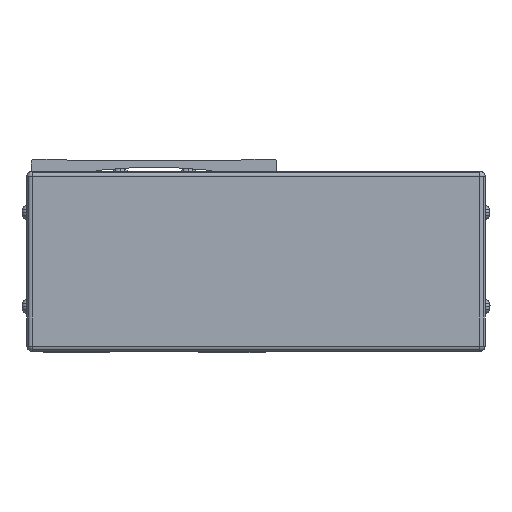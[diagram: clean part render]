
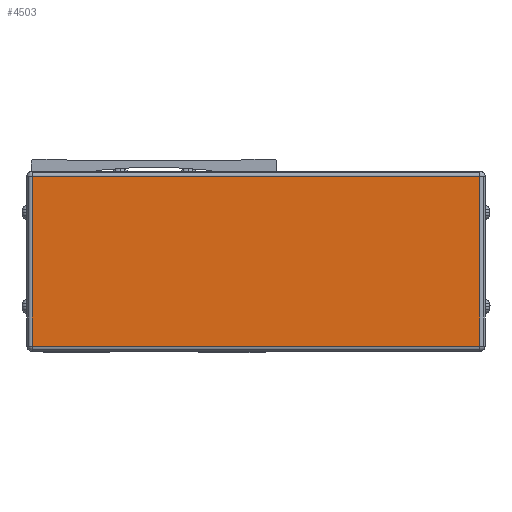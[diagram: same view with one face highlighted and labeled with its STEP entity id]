
A CAD part, front view. The second image highlights one B-rep face of the part: STEP entity #4503.
In plain terms, the highlighted planar face has unit normal (0, -1, 0).
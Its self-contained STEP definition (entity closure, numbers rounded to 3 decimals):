
#4503=ADVANCED_FACE('',(#9744),#9745,.T.);
#9744=FACE_OUTER_BOUND('',#17099,.T.);
#9745=PLANE('',#17100);
#17099=EDGE_LOOP('',(#30146,#30147,#30148,#30149));
#17100=AXIS2_PLACEMENT_3D('',#30150,#30151,#30152);
#30146=ORIENTED_EDGE('',*,*,#42590,.F.);
#30147=ORIENTED_EDGE('',*,*,#37980,.F.);
#30148=ORIENTED_EDGE('',*,*,#41761,.F.);
#30149=ORIENTED_EDGE('',*,*,#42597,.F.);
#30150=CARTESIAN_POINT('',(39.,-138.778,-42.5));
#30151=DIRECTION('',(0.0,-1.0,0.0));
#30152=DIRECTION('',(1.0,0.0,0.0));
#37980=EDGE_CURVE('',#45328,#45330,#45331,.T.);
#41761=EDGE_CURVE('',#51309,#45328,#51311,.T.);
#42590=EDGE_CURVE('',#45330,#44498,#52482,.T.);
#42597=EDGE_CURVE('',#44498,#51309,#52492,.T.);
#44498=VERTEX_POINT('',#54783);
#45328=VERTEX_POINT('',#56014);
#45330=VERTEX_POINT('',#56016);
#45331=LINE('',#56017,#56018);
#51309=VERTEX_POINT('',#65005);
#51311=LINE('',#65007,#65008);
#52482=LINE('',#66753,#66754);
#52492=LINE('',#66766,#66767);
#54783=CARTESIAN_POINT('',(-46.7,-138.778,-40.5));
#56014=CARTESIAN_POINT('',(124.7,-138.778,24.5));
#56016=CARTESIAN_POINT('',(124.7,-138.778,-40.5));
#56017=CARTESIAN_POINT('',(124.7,-138.778,-42.5));
#56018=VECTOR('',#70751,10.0);
#65005=CARTESIAN_POINT('',(-46.7,-138.778,24.5));
#65007=CARTESIAN_POINT('',(39.,-138.778,24.5));
#65008=VECTOR('',#75366,10.0);
#66753=CARTESIAN_POINT('',(39.,-138.778,-40.5));
#66754=VECTOR('',#76269,10.0);
#66766=CARTESIAN_POINT('',(-46.7,-138.778,-42.5));
#66767=VECTOR('',#76278,10.0);
#70751=DIRECTION('',(0.0,0.0,-1.0));
#75366=DIRECTION('',(1.0,0.0,0.0));
#76269=DIRECTION('',(-1.0,0.0,0.0));
#76278=DIRECTION('',(0.0,0.0,1.0));
